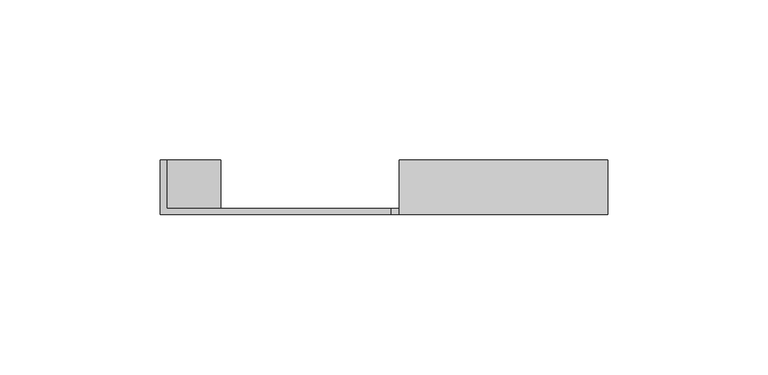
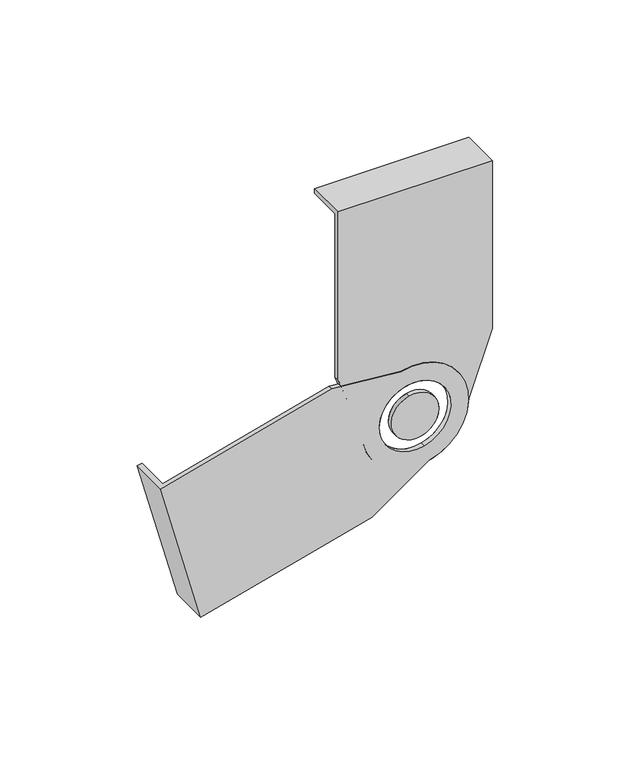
"""IFC4 building model written with IfcOpenShell, lengths in millimetres: cable carrier fitting geometry, BAKS_LD_TEE_Articulated connector attachable_LDD : LDDC_H45."""

from ifc_helpers import new_model, si_unit, frame, origin, place, context, project, spatial, polyline, circle_curve, source, transform, mapped, element, save
from ifc_brep_helpers import plane_surface, cylinder_surface, revolved_surface, advanced_brep


def cable_carrier_fitting_384de159(model_context):
    return source(origin(), model_context, "Body", "AdvancedBrep", [
        advanced_brep(
        [(-18.1513413, -2.0, -38.5101131), (5.8234285, -2.0, -21.7333311), (-5.8234285, -2.0, 21.7333311), (-34.9745792, -2.0, 24.2750656), (-106.9360532, -2.0, 4.9930468), (-90.1128153, -2.0, -57.792132), (-3.8822857, -2.0, 14.4888874), (3.8822857, -2.0, -14.4888874), (-105.0042016, 0.0, 5.5106848), (-34.9745792, 0.0, 24.2750656), (-5.8234285, 0.0, 21.7333311), (5.8234285, 0.0, -21.7333311), (-18.1513413, 0.0, -38.5101131), (-88.1809637, 0.0, -57.2744939), (3.8822857, 0.0, -14.4888874), (-3.8822857, 0.0, 14.4888874), (-90.1128153, 15.0, -57.792132), (-88.1809637, 15.0, -57.2744939), (-105.0042016, 15.0, 5.5106848), (-106.9360532, 15.0, 4.9930468)],
        [
            (0, 1),
            (1, 2, circle_curve(frame((0.0, -2.0, 0.0), z_axis=(0.0, -1.0, 0.0), x_axis=(-0.2588190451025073, 0.0, 0.965925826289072)), 22.5)),
            (2, 3),
            (3, 4),
            (4, 5),
            (5, 0),
            (6, 7, circle_curve(frame((0.0, -2.0, 0.0), z_axis=(0.0, 1.0, 0.0), x_axis=(-0.2588190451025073, 0.0, 0.965925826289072)), 15.0)),
            (7, 6, circle_curve(frame((0.0, -2.0, 0.0), z_axis=(0.0, 1.0, 0.0), x_axis=(-0.2588190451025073, 0.0, 0.965925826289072)), 15.0)),
            (8, 9),
            (9, 10),
            (10, 11, circle_curve(frame((0.0, 0.0, 0.0), z_axis=(0.0, 1.0, 0.0), x_axis=(-0.2588190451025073, 0.0, 0.965925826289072)), 22.5)),
            (11, 12),
            (12, 13),
            (13, 8),
            (14, 15, circle_curve(frame((0.0, 0.0, 0.0), z_axis=(0.0, -1.0, 0.0), x_axis=(-0.2588190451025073, 0.0, 0.965925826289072)), 15.0)),
            (15, 14, circle_curve(frame((0.0, 0.0, 0.0), z_axis=(0.0, -1.0, 0.0), x_axis=(-0.2588190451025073, 0.0, 0.965925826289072)), 15.0)),
            (5, 16),
            (16, 17),
            (17, 13),
            (12, 0),
            (11, 1),
            (10, 2),
            (9, 3),
            (8, 18),
            (18, 19),
            (19, 4),
            (6, 15),
            (14, 7),
            (17, 18),
            (19, 16),
        ],
        [
            plane_surface(frame((-88.1809637, -2.0, -57.2744939), z_axis=(0.0, -1.0, 0.0), x_axis=(0.2588190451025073, 0.0, -0.965925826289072))),
            plane_surface(frame((-88.1809637, 0.0, -57.2744939), z_axis=(0.0, 1.0, 0.0), x_axis=(-0.2588190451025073, 0.0, 0.965925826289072))),
            plane_surface(frame((-88.1809637, -2.0, -57.2744939), z_axis=(0.25881904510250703, 0.0, -0.9659258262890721), x_axis=(0.0, 1.0, 0.0))),
            plane_surface(frame((-18.1513413, -2.0, -38.5101131), z_axis=(0.5733348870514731, 0.0, -0.8193211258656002), x_axis=(0.0, 1.0, 0.0))),
            cylinder_surface(frame((0.0, 0.0, 0.0), z_axis=(0.0, -1.0, 0.0), x_axis=(-0.2588190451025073, 0.0, 0.965925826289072)), 22.5),
            plane_surface(frame((-5.8234285, -2.0, 21.7333311), z_axis=(0.0868620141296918, 0.0, 0.9962203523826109), x_axis=(0.0, 1.0, 0.0))),
            plane_surface(frame((-34.9745792, -2.0, 24.2750656), z_axis=(-0.2588190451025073, 0.0, 0.965925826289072), x_axis=(0.0, 1.0, 0.0))),
            revolved_surface(polyline([(-3.8822856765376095, -2.0, 14.48888739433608), (-3.8822856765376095, 0.0, 14.48888739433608)]), (0.0, 0.0, 0.0), (0.0, -1.0, 0.0)),
            plane_surface(frame((-88.1809637, -2.0, -57.2744939), z_axis=(0.965925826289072, 0.0, 0.2588190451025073), x_axis=(0.2588190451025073, 0.0, -0.965925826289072))),
            plane_surface(frame((-90.1128153, -2.0, -57.792132), z_axis=(-0.965925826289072, 0.0, -0.2588190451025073), x_axis=(-0.2588190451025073, 0.0, 0.965925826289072))),
            plane_surface(frame((-88.1809637, 15.0, -57.2744939), z_axis=(0.0, 1.0, 0.0), x_axis=(-0.965925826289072, 0.0, -0.2588190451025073))),
        ],
        [
            (0, [[1, 2, 3, 4, 5, 6], [7, 8]]),
            (1, [[9, 10, 11, 12, 13, 14], [15, 16]]),
            (2, [[-6, 17, 18, 19, -13, 20]]),
            (3, [[-1, -20, -12, 21]]),
            (4, [[-2, -21, -11, 22]]),
            (5, [[-3, -22, -10, 23]]),
            (6, [[-4, -23, -9, 24, 25, 26]]),
            (7, [[27, -15, 28, -7]]),
            (7, [[-27, -8, -28, -16]]),
            (8, [[29, -24, -14, -19]]),
            (9, [[-26, 30, -17, -5]]),
            (10, [[-29, -18, -30, -25]]),
        ],
    ),
        advanced_brep(
        [(-2.5881905, -2.0, 9.6592583), (2.5881905, -2.0, -9.6592583), (2.5881905, 0.0, -9.6592583), (-2.5881905, 0.0, 9.6592583)],
        [
            (0, 1, circle_curve(frame((0.0, -2.0, 0.0), z_axis=(0.0, -1.0, 0.0), x_axis=(-0.2588190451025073, 0.0, 0.965925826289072)), 10.0)),
            (1, 0, circle_curve(frame((0.0, -2.0, 0.0), z_axis=(0.0, -1.0, 0.0), x_axis=(-0.2588190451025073, 0.0, 0.965925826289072)), 10.0)),
            (2, 3, circle_curve(frame((0.0, 0.0, 0.0), z_axis=(0.0, 1.0, 0.0), x_axis=(-0.2588190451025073, 0.0, 0.965925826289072)), 10.0)),
            (3, 2, circle_curve(frame((0.0, 0.0, 0.0), z_axis=(0.0, 1.0, 0.0), x_axis=(-0.2588190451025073, 0.0, 0.965925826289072)), 10.0)),
            (0, 3),
            (2, 1),
        ],
        [
            plane_surface(frame((-88.1809637, -2.0, -57.2744939), z_axis=(0.0, -1.0, 0.0), x_axis=(0.2588190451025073, 0.0, -0.965925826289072))),
            plane_surface(frame((-88.1809637, 0.0, -57.2744939), z_axis=(0.0, 1.0, 0.0), x_axis=(-0.2588190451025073, 0.0, 0.965925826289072))),
            cylinder_surface(frame((0.0, 0.0, 0.0), z_axis=(0.0, 1.0, 0.0), x_axis=(-0.2588190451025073, 0.0, 0.965925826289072)), 10.0),
        ],
        [
            (0, [[1, 2]]),
            (1, [[3, 4]]),
            (2, [[5, -3, 6, -1]]),
            (2, [[-5, -2, -6, -4]]),
        ],
    ),
        advanced_brep(
        [(-32.5, -2.0, 27.5), (-22.5, -2.0, 0.0), (22.5, -2.0, 0.0), (32.5, -2.0, 27.5), (32.5, -2.0, 102.0), (-32.5, -2.0, 102.0), (15.0, -2.0, 0.0), (-15.0, -2.0, 0.0), (32.5, 0.0, 100.0), (32.5, 0.0, 27.5), (22.5, 0.0, 0.0), (-22.5, 0.0, 0.0), (-32.5, 0.0, 27.5), (-32.5, 0.0, 100.0), (-15.0, 0.0, 0.0), (15.0, 0.0, 0.0), (-32.5, 15.0, 102.0), (-32.5, 15.0, 100.0), (32.5, 15.0, 100.0), (32.5, 15.0, 102.0)],
        [
            (0, 1),
            (1, 2, circle_curve(frame((0.0, -2.0, 0.0), z_axis=(0.0, -1.0, 0.0), x_axis=(1.0, 0.0, 0.0)), 22.5)),
            (2, 3),
            (3, 4),
            (4, 5),
            (5, 0),
            (6, 7, circle_curve(frame((0.0, -2.0, 0.0), z_axis=(0.0, 1.0, 0.0), x_axis=(1.0, 0.0, 0.0)), 15.0)),
            (7, 6, circle_curve(frame((0.0, -2.0, 0.0), z_axis=(0.0, 1.0, 0.0), x_axis=(1.0, 0.0, 0.0)), 15.0)),
            (8, 9),
            (9, 10),
            (10, 11, circle_curve(frame((0.0, 0.0, 0.0), z_axis=(0.0, 1.0, 0.0), x_axis=(1.0, 0.0, 0.0)), 22.5)),
            (11, 12),
            (12, 13),
            (13, 8),
            (14, 15, circle_curve(frame((0.0, 0.0, 0.0), z_axis=(0.0, -1.0, 0.0), x_axis=(1.0, 0.0, 0.0)), 15.0)),
            (15, 14, circle_curve(frame((0.0, 0.0, 0.0), z_axis=(0.0, -1.0, 0.0), x_axis=(1.0, 0.0, 0.0)), 15.0)),
            (5, 16),
            (16, 17),
            (17, 13),
            (12, 0),
            (11, 1),
            (10, 2),
            (9, 3),
            (8, 18),
            (18, 19),
            (19, 4),
            (6, 15),
            (14, 7),
            (17, 18),
            (19, 16),
        ],
        [
            plane_surface(frame((-32.5, -2.0, 100.0), z_axis=(0.0, -1.0, 0.0), x_axis=(-1.0, 0.0, 0.0))),
            plane_surface(frame((-32.5, 0.0, 100.0), z_axis=(0.0, 1.0, 0.0), x_axis=(1.0, 0.0, 0.0))),
            plane_surface(frame((-32.5, -2.0, 100.0), z_axis=(-1.0, 0.0, 0.0), x_axis=(0.0, 1.0, 0.0))),
            plane_surface(frame((-32.5, -2.0, 27.5), z_axis=(-0.9397934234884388, 0.0, -0.3417430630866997), x_axis=(0.0, 1.0, 0.0))),
            cylinder_surface(frame((0.0, 0.0, 0.0), z_axis=(0.0, -1.0, 0.0), x_axis=(1.0, 0.0, 0.0)), 22.5),
            plane_surface(frame((22.5, -2.0, 0.0), z_axis=(0.9397934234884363, 0.0, -0.34174306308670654), x_axis=(0.0, 1.0, 0.0))),
            plane_surface(frame((32.5, -2.0, 27.5), z_axis=(1.0, 0.0, 0.0), x_axis=(0.0, 1.0, 0.0))),
            revolved_surface(polyline([(15.0, -2.0, 0.0), (15.0, 0.0, 0.0)]), (0.0, 0.0, 0.0), (0.0, -1.0, 0.0)),
            plane_surface(frame((-32.5, -2.0, 100.0), z_axis=(0.0, 0.0, -1.0), x_axis=(-1.0, 0.0, 0.0))),
            plane_surface(frame((-32.5, -2.0, 102.0), z_axis=(0.0, 0.0, 1.0), x_axis=(1.0, 0.0, 0.0))),
            plane_surface(frame((-32.5, 15.0, 100.0), z_axis=(0.0, 1.0, 0.0), x_axis=(0.0, 0.0, 1.0))),
        ],
        [
            (0, [[1, 2, 3, 4, 5, 6], [7, 8]]),
            (1, [[9, 10, 11, 12, 13, 14], [15, 16]]),
            (2, [[-6, 17, 18, 19, -13, 20]]),
            (3, [[-1, -20, -12, 21]]),
            (4, [[-2, -21, -11, 22]]),
            (5, [[-3, -22, -10, 23]]),
            (6, [[-4, -23, -9, 24, 25, 26]]),
            (7, [[27, -15, 28, -7]]),
            (7, [[-27, -8, -28, -16]]),
            (8, [[29, -24, -14, -19]]),
            (9, [[-26, 30, -17, -5]]),
            (10, [[-29, -18, -30, -25]]),
        ],
    ),
        advanced_brep(
        [(10.0, -2.0, 0.0), (-10.0, -2.0, 0.0), (-10.0, 0.0, 0.0), (10.0, 0.0, 0.0)],
        [
            (0, 1, circle_curve(frame((0.0, -2.0, 0.0), z_axis=(0.0, -1.0, 0.0), x_axis=(1.0, 0.0, 0.0)), 10.0)),
            (1, 0, circle_curve(frame((0.0, -2.0, 0.0), z_axis=(0.0, -1.0, 0.0), x_axis=(1.0, 0.0, 0.0)), 10.0)),
            (2, 3, circle_curve(frame((0.0, 0.0, 0.0), z_axis=(0.0, 1.0, 0.0), x_axis=(1.0, 0.0, 0.0)), 10.0)),
            (3, 2, circle_curve(frame((0.0, 0.0, 0.0), z_axis=(0.0, 1.0, 0.0), x_axis=(1.0, 0.0, 0.0)), 10.0)),
            (0, 3),
            (2, 1),
        ],
        [
            plane_surface(frame((-32.5, -2.0, 100.0), z_axis=(0.0, -1.0, 0.0), x_axis=(-1.0, 0.0, 0.0))),
            plane_surface(frame((-32.5, 0.0, 100.0), z_axis=(0.0, 1.0, 0.0), x_axis=(1.0, 0.0, 0.0))),
            cylinder_surface(frame((0.0, 0.0, 0.0), z_axis=(0.0, 1.0, 0.0), x_axis=(1.0, 0.0, 0.0)), 10.0),
        ],
        [
            (0, [[1, 2]]),
            (1, [[3, 4]]),
            (2, [[5, -3, 6, -1]]),
            (2, [[-5, -2, -6, -4]]),
        ],
    ),
    ])


if __name__ == "__main__":
    model = new_model("IFC4")
    model_context = context("Model", 3, world=origin())
    ifc_project = project(units=[si_unit("LENGTHUNIT", "METRE", prefix="MILLI")], contexts=[model_context])
    site = spatial("IfcSite", under=ifc_project)
    building = spatial("IfcBuilding", under=site)
    placement = place(None, origin())
    cable_carrier_fitting_shape = cable_carrier_fitting_384de159(model_context)
    element("IfcCableCarrierFitting", 1, ObjectType="BAKS_LD_TEE_Articulated connector attachable_LDD : LDDC_H45", at=placement, inside=building, context=model_context, shape_type="MappedRepresentation", body=[
        mapped(cable_carrier_fitting_shape, transform((0.0, 0.0, 0.0), x_axis=(1.0, 0.0, 0.0), y_axis=(0.0, 1.0, 0.0), z_axis=(0.0, 0.0, 1.0))),
    ])
    save(model, "model.ifc")
